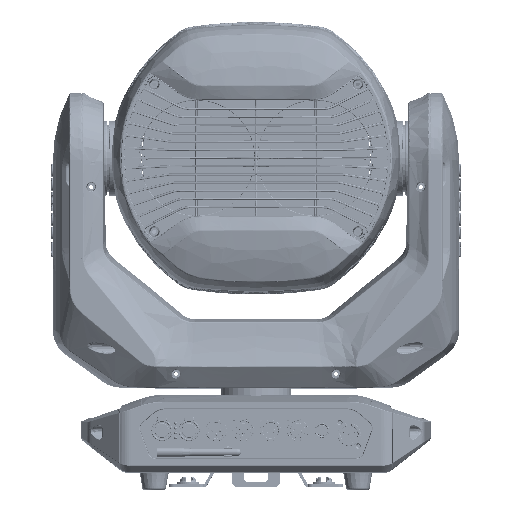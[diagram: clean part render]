
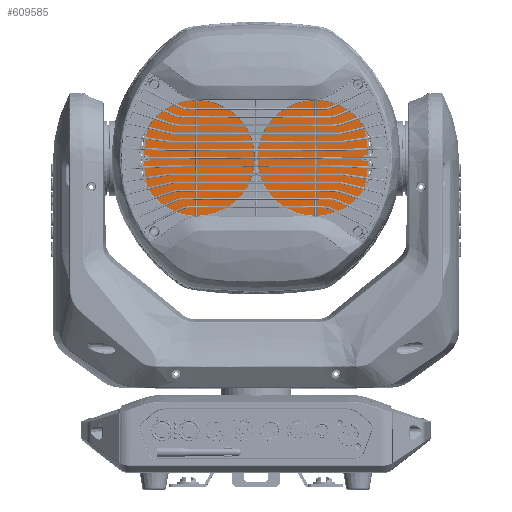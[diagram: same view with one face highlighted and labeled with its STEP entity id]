
A CAD part, top view. The second image highlights one B-rep face of the part: STEP entity #609585.
In plain terms, the highlighted planar face has unit normal (0, 0, 1).
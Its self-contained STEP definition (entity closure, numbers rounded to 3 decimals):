
#608985=CARTESIAN_POINT('',(-2.,205.017,-73.5));
#608986=VERTEX_POINT('',#608985);
#608987=CARTESIAN_POINT('',(-2.,205.725,-73.5));
#608988=VERTEX_POINT('',#608987);
#608989=CARTESIAN_POINT('',(-2.,205.017,-73.5));
#608990=DIRECTION('',(0.,1.,0.));
#608991=VECTOR('',#608990,0.708);
#608992=LINE('',#608989,#608991);
#608993=EDGE_CURVE('',#608986,#608988,#608992,.T.);
#609025=CARTESIAN_POINT('',(-3.25,208.287,-73.5));
#609026=VERTEX_POINT('',#609025);
#609035=CARTESIAN_POINT('',(0.,208.287,-73.5));
#609036=DIRECTION('',(0.,0.,-1.));
#609037=DIRECTION('',(-0.615,-0.788,0.));
#609038=AXIS2_PLACEMENT_3D('',#609035,#609036,#609037);
#609039=CIRCLE('',#609038,3.25);
#609040=EDGE_CURVE('',#608988,#609026,#609039,.T.);
#609058=CARTESIAN_POINT('',(2.,205.017,-73.5));
#609059=VERTEX_POINT('',#609058);
#609068=CARTESIAN_POINT('',(2.,205.725,-73.5));
#609069=VERTEX_POINT('',#609068);
#609070=CARTESIAN_POINT('',(2.,205.017,-73.5));
#609071=DIRECTION('',(0.,1.,0.));
#609072=VECTOR('',#609071,0.708);
#609073=LINE('',#609070,#609072);
#609074=EDGE_CURVE('',#609059,#609069,#609073,.T.);
#609098=CARTESIAN_POINT('',(115.954,317.75,-73.5));
#609099=VERTEX_POINT('',#609098);
#609116=CARTESIAN_POINT('',(112.713,317.75,-73.5));
#609117=VERTEX_POINT('',#609116);
#609124=CARTESIAN_POINT('',(115.954,317.75,-73.5));
#609125=DIRECTION('',(-1.,0.,-0.));
#609126=VECTOR('',#609125,3.241);
#609127=LINE('',#609124,#609126);
#609128=EDGE_CURVE('',#609099,#609117,#609127,.T.);
#609147=CARTESIAN_POINT('',(112.713,324.25,-73.5));
#609148=VERTEX_POINT('',#609147);
#609155=CARTESIAN_POINT('',(112.713,321.,-73.5));
#609156=DIRECTION('',(0.,0.,-1.));
#609157=DIRECTION('',(0.,-1.,0.));
#609158=AXIS2_PLACEMENT_3D('',#609155,#609156,#609157);
#609159=CIRCLE('',#609158,3.25);
#609160=EDGE_CURVE('',#609117,#609148,#609159,.T.);
#609180=CARTESIAN_POINT('',(115.954,324.25,-73.5));
#609181=VERTEX_POINT('',#609180);
#609188=CARTESIAN_POINT('',(115.954,324.25,-73.5));
#609189=DIRECTION('',(-1.,0.,-0.));
#609190=VECTOR('',#609189,3.241);
#609191=LINE('',#609188,#609190);
#609192=EDGE_CURVE('',#609181,#609148,#609191,.T.);
#609202=CARTESIAN_POINT('',(3.25,433.713,-73.5));
#609203=VERTEX_POINT('',#609202);
#609212=CARTESIAN_POINT('',(2.,436.275,-73.5));
#609213=VERTEX_POINT('',#609212);
#609214=CARTESIAN_POINT('',(0.,433.713,-73.5));
#609215=DIRECTION('',(0.,0.,-1.));
#609216=DIRECTION('',(0.615,0.788,0.));
#609217=AXIS2_PLACEMENT_3D('',#609214,#609215,#609216);
#609218=CIRCLE('',#609217,3.25);
#609219=EDGE_CURVE('',#609213,#609203,#609218,.T.);
#609244=CARTESIAN_POINT('',(2.,436.983,-73.5));
#609245=VERTEX_POINT('',#609244);
#609246=CARTESIAN_POINT('',(2.,436.983,-73.5));
#609247=DIRECTION('',(0.,-1.,0.));
#609248=VECTOR('',#609247,0.708);
#609249=LINE('',#609246,#609248);
#609250=EDGE_CURVE('',#609245,#609213,#609249,.T.);
#609277=CARTESIAN_POINT('',(-112.713,317.75,-73.5));
#609278=VERTEX_POINT('',#609277);
#609293=CARTESIAN_POINT('',(-115.954,317.75,-73.5));
#609294=VERTEX_POINT('',#609293);
#609301=CARTESIAN_POINT('',(-115.954,317.75,-73.5));
#609302=DIRECTION('',(1.,0.,0.));
#609303=VECTOR('',#609302,3.241);
#609304=LINE('',#609301,#609303);
#609305=EDGE_CURVE('',#609294,#609278,#609304,.T.);
#609315=CARTESIAN_POINT('',(-112.713,324.25,-73.5));
#609316=VERTEX_POINT('',#609315);
#609317=CARTESIAN_POINT('',(-112.713,321.,-73.5));
#609318=DIRECTION('',(-0.,0.,1.));
#609319=DIRECTION('',(0.,-1.,0.));
#609320=AXIS2_PLACEMENT_3D('',#609317,#609318,#609319);
#609321=CIRCLE('',#609320,3.25);
#609322=EDGE_CURVE('',#609278,#609316,#609321,.T.);
#609348=CARTESIAN_POINT('',(-115.954,324.25,-73.5));
#609349=VERTEX_POINT('',#609348);
#609365=CARTESIAN_POINT('',(-115.954,324.25,-73.5));
#609366=DIRECTION('',(1.,0.,0.));
#609367=VECTOR('',#609366,3.241);
#609368=LINE('',#609365,#609367);
#609369=EDGE_CURVE('',#609349,#609316,#609368,.T.);
#609379=CARTESIAN_POINT('',(-0.,321.,-73.5));
#609380=DIRECTION('',(-0.,0.,1.));
#609381=DIRECTION('',(-1.,-0.028,0.));
#609382=AXIS2_PLACEMENT_3D('',#609379,#609380,#609381);
#609383=CIRCLE('',#609382,116.);
#609384=EDGE_CURVE('',#609294,#608986,#609383,.T.);
#609411=CARTESIAN_POINT('',(-0.,321.,-73.5));
#609412=DIRECTION('',(-0.,0.,1.));
#609413=DIRECTION('',(0.017,-1.,0.));
#609414=AXIS2_PLACEMENT_3D('',#609411,#609412,#609413);
#609415=CIRCLE('',#609414,116.);
#609416=EDGE_CURVE('',#609059,#609099,#609415,.T.);
#609427=CARTESIAN_POINT('',(-0.,321.,-73.5));
#609428=DIRECTION('',(-0.,0.,1.));
#609429=DIRECTION('',(1.,0.028,0.));
#609430=AXIS2_PLACEMENT_3D('',#609427,#609428,#609429);
#609431=CIRCLE('',#609430,116.);
#609432=EDGE_CURVE('',#609181,#609245,#609431,.T.);
#609461=CARTESIAN_POINT('',(-2.,436.983,-73.5));
#609462=VERTEX_POINT('',#609461);
#609463=CARTESIAN_POINT('',(-0.,321.,-73.5));
#609464=DIRECTION('',(-0.,0.,1.));
#609465=DIRECTION('',(-0.017,1.,0.));
#609466=AXIS2_PLACEMENT_3D('',#609463,#609464,#609465);
#609467=CIRCLE('',#609466,116.);
#609468=EDGE_CURVE('',#609462,#609349,#609467,.T.);
#609530=CARTESIAN_POINT('',(-2.,436.275,-73.5));
#609531=VERTEX_POINT('',#609530);
#609532=CARTESIAN_POINT('',(-2.,436.983,-73.5));
#609533=DIRECTION('',(0.,-1.,0.));
#609534=VECTOR('',#609533,0.708);
#609535=LINE('',#609532,#609534);
#609536=EDGE_CURVE('',#609462,#609531,#609535,.T.);
#609548=CARTESIAN_POINT('',(-0.,321.,-73.5));
#609549=DIRECTION('',(0.,0.,-1.));
#609550=DIRECTION('',(0.,-1.,0.));
#609551=AXIS2_PLACEMENT_3D('',#609548,#609549,#609550);
#609552=PLANE('',#609551);
#609553=ORIENTED_EDGE('',*,*,#609468,.T.);
#609554=ORIENTED_EDGE('',*,*,#609369,.T.);
#609555=ORIENTED_EDGE('',*,*,#609322,.F.);
#609556=ORIENTED_EDGE('',*,*,#609305,.F.);
#609557=ORIENTED_EDGE('',*,*,#609384,.T.);
#609558=ORIENTED_EDGE('',*,*,#608993,.T.);
#609559=ORIENTED_EDGE('',*,*,#609040,.T.);
#609560=CARTESIAN_POINT('',(0.,208.287,-73.5));
#609561=DIRECTION('',(0.,0.,-1.));
#609562=DIRECTION('',(-0.615,-0.788,0.));
#609563=AXIS2_PLACEMENT_3D('',#609560,#609561,#609562);
#609564=CIRCLE('',#609563,3.25);
#609565=EDGE_CURVE('',#609026,#609069,#609564,.T.);
#609566=ORIENTED_EDGE('',*,*,#609565,.T.);
#609567=ORIENTED_EDGE('',*,*,#609074,.F.);
#609568=ORIENTED_EDGE('',*,*,#609416,.T.);
#609569=ORIENTED_EDGE('',*,*,#609128,.T.);
#609570=ORIENTED_EDGE('',*,*,#609160,.T.);
#609571=ORIENTED_EDGE('',*,*,#609192,.F.);
#609572=ORIENTED_EDGE('',*,*,#609432,.T.);
#609573=ORIENTED_EDGE('',*,*,#609250,.T.);
#609574=ORIENTED_EDGE('',*,*,#609219,.T.);
#609575=CARTESIAN_POINT('',(0.,433.713,-73.5));
#609576=DIRECTION('',(0.,0.,-1.));
#609577=DIRECTION('',(0.615,0.788,0.));
#609578=AXIS2_PLACEMENT_3D('',#609575,#609576,#609577);
#609579=CIRCLE('',#609578,3.25);
#609580=EDGE_CURVE('',#609203,#609531,#609579,.T.);
#609581=ORIENTED_EDGE('',*,*,#609580,.T.);
#609582=ORIENTED_EDGE('',*,*,#609536,.F.);
#609583=EDGE_LOOP('',(#609553,#609554,#609555,#609556,#609557,#609558,#609559,#609566,#609567,#609568,#609569,#609570,#609571,#609572,#609573,#609574,#609581,#609582));
#609584=FACE_BOUND('',#609583,.T.);
#609585=ADVANCED_FACE('',(#609584),#609552,.F.);
